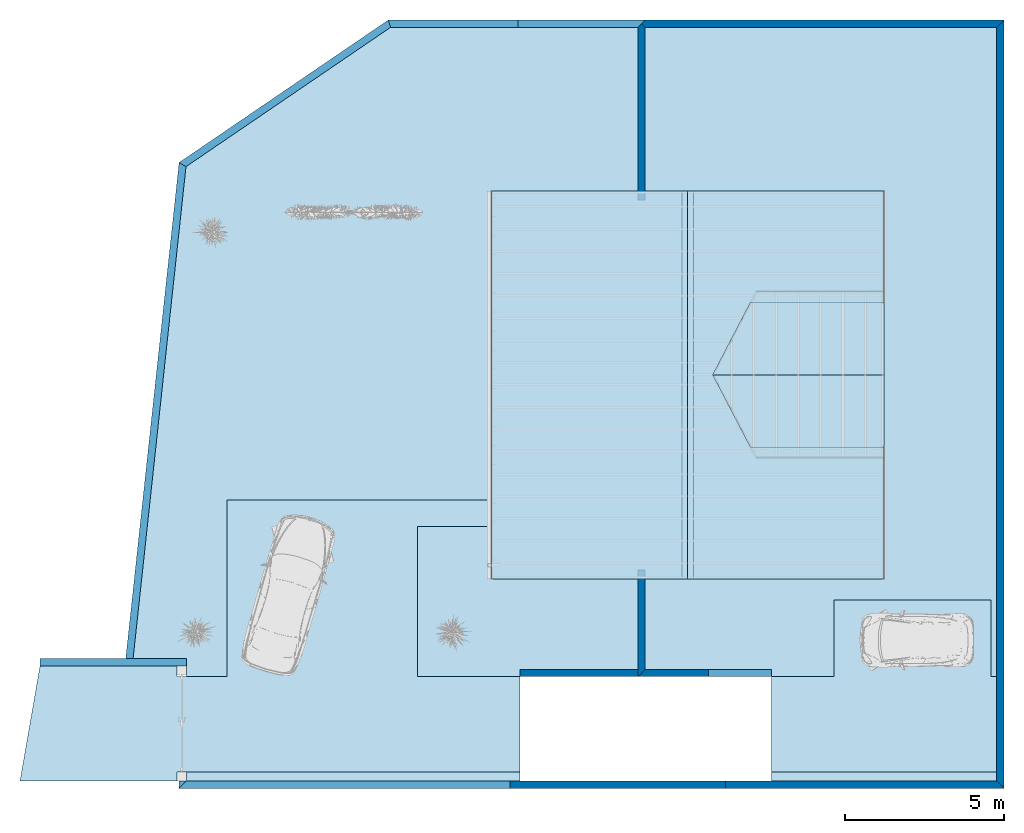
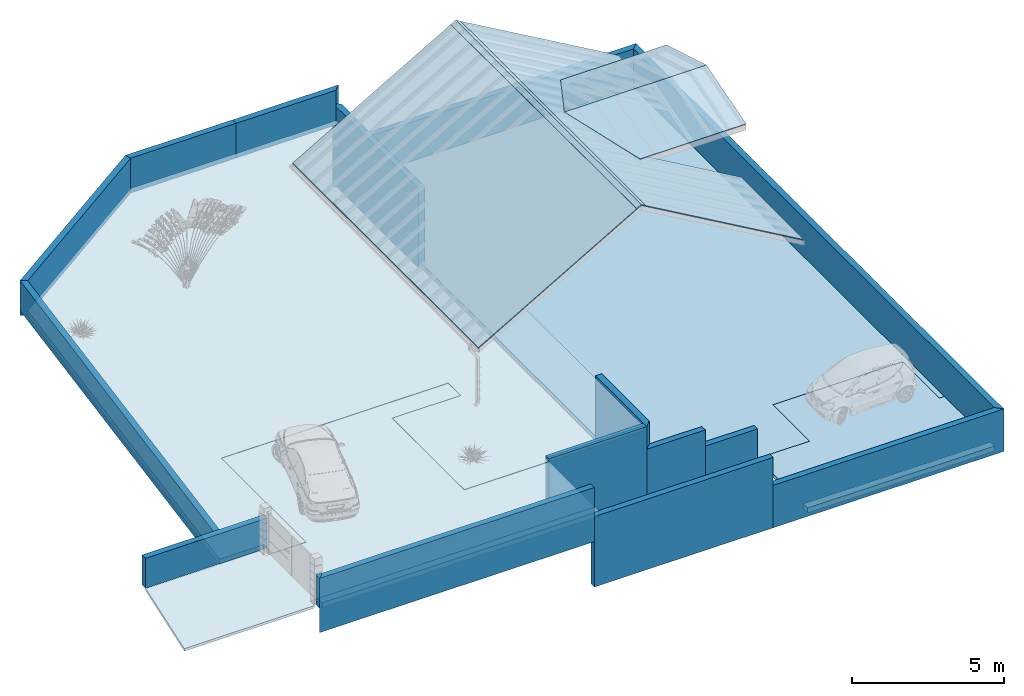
# One storey, part 1 of 7: 22 slabs, 16 walls, 1 opening.
"""IFC2X3 building model written with IfcOpenShell, lengths in metres."""

from ifc_helpers import new_model, entity, si_unit, converted_unit, derived_unit, money_unit, direction, frame, origin_with_axes, origin_2d_with_axis, place, context, subcontext, project, spatial, polyline, rectangle, outline, extrude, material, layer, layer_set, layer_usage, type_object, element, save


model = new_model("IFC2X3")

# Units and contexts
model_context = context("Model", 3, precision=1e-05, world=origin_with_axes(), true_north=direction((0.0, 1.0)))
body_context = subcontext(model_context, "Body", "Model", "MODEL_VIEW")
ifc_project = project(units=[si_unit("LENGTHUNIT", "METRE"), si_unit("AREAUNIT", "SQUARE_METRE"), si_unit("VOLUMEUNIT", "CUBIC_METRE"), converted_unit("PLANEANGLEUNIT", "DEGREE", entity("IfcPlaneAngleMeasure", 0.0174532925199), si_unit("PLANEANGLEUNIT", "RADIAN"), dimensions=[0, 0, 0, 0, 0, 0, 0]), si_unit("SOLIDANGLEUNIT", "STERADIAN"), money_unit("CHF"), converted_unit("TIMEUNIT", "Year", entity("IfcTimeMeasure", 31556926.0), si_unit("TIMEUNIT", "SECOND"), dimensions=[0, 0, 1, 0, 0, 0, 0]), si_unit("MASSUNIT", "GRAM", prefix="KILO"), si_unit("THERMODYNAMICTEMPERATUREUNIT", "DEGREE_CELSIUS"), si_unit("LUMINOUSINTENSITYUNIT", "LUMEN"), si_unit("ENERGYUNIT", "JOULE", prefix="MEGA"), derived_unit("THERMALCONDUCTANCEUNIT", [(si_unit("POWERUNIT", "WATT"), 1), (si_unit("LENGTHUNIT", "METRE"), -1), (si_unit("THERMODYNAMICTEMPERATUREUNIT", "KELVIN"), -1)]), derived_unit("SPECIFICHEATCAPACITYUNIT", [(si_unit("ENERGYUNIT", "JOULE"), 1), (si_unit("MASSUNIT", "GRAM", prefix="KILO"), -1), (si_unit("THERMODYNAMICTEMPERATUREUNIT", "KELVIN"), -1)]), derived_unit("MASSDENSITYUNIT", [(si_unit("MASSUNIT", "GRAM", prefix="KILO"), 1), (si_unit("VOLUMEUNIT", "CUBIC_METRE"), -1)])], contexts=[model_context])

# Site, building, storey
site_placement = place(None, origin_with_axes())
site = spatial("IfcSite", under=ifc_project, at=site_placement, Name="Site", CompositionType="ELEMENT")
building_placement = place(site_placement, origin_with_axes())
building = spatial("IfcBuilding", under=site, at=building_placement, Name="Bâtiment", CompositionType="ELEMENT")
storey_placement = place(building_placement, frame((0.0, 0.0, 9.0), z_axis=(0.0, 0.0, 1.0), x_axis=(1.0, 0.0, 0.0)))
storey = spatial("IfcBuildingStorey", under=building, at=storey_placement, Name="TOITURE", CompositionType="ELEMENT", Elevation=9.0)

# Slabs
ifc_material_1 = material(Name="Sans Trame* 3165822909")
ifc_layer_1 = layer(ifc_material_1, 0.01, ventilated="UNKNOWN")
ifc_layer_set_1 = layer_set([ifc_layer_1], Name="Sans Trame* 3165822909 0.01")
ifc_layer_usage_1 = layer_usage(ifc_layer_set_1, "AXIS3", "NEGATIVE", 0.01)
slab_type_1 = type_object("IfcSlabType", Name="Sans Trame* 3165822909 10", PredefinedType="ROOF")
slab_1_placement = place(storey_placement, frame((84.7835191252, 19.0903411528, -6.13120418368), z_axis=(0.0, 0.0, 1.0), x_axis=(0.0, -1.0, 0.0)))
element("IfcSlab", 1, at=slab_1_placement, inside=storey, type_object=slab_type_1, material=ifc_layer_usage_1, Name="Toit-01", PredefinedType="ROOF", context=body_context, shape_type="SweptSolid", body=[
    extrude(outline(polyline([(9.56579953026e-08, 6.80118608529), (6.66677308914e-08, -0.323316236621), (12.1900000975, -0.323316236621), (12.190000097, 6.80118608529), (9.56579953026e-08, 6.80118608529)])), frame((0.0, 0.0, 0.0), z_axis=(0.0, -0.5, 0.866025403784), x_axis=(1.0, 0.0, 0.0)), (0.0, 0.5, 0.866025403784), 0.0115470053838),
])
ifc_layer_usage_2 = layer_usage(ifc_layer_set_1, "AXIS3", "NEGATIVE", 0.01)
slab_2_placement = place(storey_placement, frame((84.7835191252, 19.0903411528, -6.13120418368), z_axis=(0.0, 0.0, 1.0), x_axis=(0.0, -1.0, 0.0)))
element("IfcSlab", 2, at=slab_2_placement, inside=storey, type_object=slab_type_1, material=ifc_layer_usage_2, Name="Toit-01", PredefinedType="ROOF", context=body_context, shape_type="SweptSolid", body=[
    extrude(outline(polyline([(9.56579953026e-08, 6.80118608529), (6.66677308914e-08, -0.323316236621), (12.1900000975, -0.323316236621), (12.190000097, 6.80118608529), (9.56579953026e-08, 6.80118608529)])), frame((0.0, 0.0, 0.0), z_axis=(0.0, -0.5, 0.866025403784), x_axis=(1.0, 0.0, 0.0)), (0.0, 0.5, 0.866025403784), 0.0115470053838),
])
ifc_material_2 = material(Name="Finition ext - Crépis")
ifc_layer_2 = layer(ifc_material_2, 0.01, ventilated="UNKNOWN")
ifc_layer_set_2 = layer_set([ifc_layer_2], Name="Finition ext - Crépis 0.01")
ifc_layer_usage_3 = layer_usage(ifc_layer_set_2, "AXIS3", "NEGATIVE", 0.01)
slab_type_2 = type_object("IfcSlabType", Name="Finition ext - Crépis 10", PredefinedType="ROOF")
slab_3_placement = place(storey_placement, frame((96.5635189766, 6.90034098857, -6.13120418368), z_axis=(0.0, 0.0, 1.0), x_axis=(0.0, 1.0, 0.0)))
element("IfcSlab", 3, at=slab_3_placement, inside=storey, type_object=slab_type_2, material=ifc_layer_usage_3, Name="Toit-01", PredefinedType="ROOF", context=body_context, shape_type="SweptSolid", body=[
    extrude(outline(polyline([(6.66677308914e-08, 6.80118608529), (6.66677308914e-08, -0.323316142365), (4.15000010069, -0.323316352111), (4.15000010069, 4.52616059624), (6.41500006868, 5.88897265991), (8.68000006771, 4.52616057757), (8.68000002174, -0.323316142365), (12.1900000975, -0.323316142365), (12.1900000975, 6.80118608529), (6.66677308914e-08, 6.80118608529)])), frame((0.0, 0.0, 0.0), z_axis=(0.0, -0.5, 0.866025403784), x_axis=(1.0, 0.0, 0.0)), (0.0, 0.5, 0.866025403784), 0.0115470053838),
])
ifc_layer_usage_4 = layer_usage(ifc_layer_set_2, "AXIS3", "NEGATIVE", 0.01)
slab_4_placement = place(storey_placement, frame((96.5635189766, 6.90034098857, -6.13120418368), z_axis=(0.0, 0.0, 1.0), x_axis=(0.0, 1.0, 0.0)))
element("IfcSlab", 4, at=slab_4_placement, inside=storey, type_object=slab_type_2, material=ifc_layer_usage_4, Name="Toit-01", PredefinedType="ROOF", context=body_context, shape_type="SweptSolid", body=[
    extrude(outline(polyline([(6.66677308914e-08, 6.80118608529), (6.66677308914e-08, -0.323316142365), (4.15000010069, -0.323316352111), (4.15000010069, 4.52616059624), (6.41500006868, 5.88897265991), (8.68000006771, 4.52616057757), (8.68000002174, -0.323316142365), (12.1900000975, -0.323316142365), (12.1900000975, 6.80118608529), (6.66677308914e-08, 6.80118608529)])), frame((0.0, 0.0, 0.0), z_axis=(0.0, -0.5, 0.866025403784), x_axis=(1.0, 0.0, 0.0)), (0.0, 0.5, 0.866025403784), 0.0115470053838),
])
ifc_layer_3 = layer(ifc_material_1, 0.02, ventilated="UNKNOWN")
ifc_layer_set_3 = layer_set([ifc_layer_3], Name="Sans Trame* 3165822909 0.02")
ifc_layer_usage_5 = layer_usage(ifc_layer_set_3, "AXIS3", "NEGATIVE", 0.02)
slab_type_3 = type_object("IfcSlabType", Name="Sans Trame* 3165822909 20", PredefinedType="ROOF")
slab_5_placement = place(storey_placement, frame((96.5635189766, 6.90034098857, -6.16368705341), z_axis=(0.0, 0.0, 1.0), x_axis=(0.0, 1.0, 0.0)))
element("IfcSlab", 5, at=slab_5_placement, inside=storey, type_object=slab_type_3, material=ifc_layer_usage_5, Name="Toit-01", PredefinedType="ROOF", context=body_context, shape_type="SweptSolid", body=[
    extrude(outline(polyline([(6.66677308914e-08, 6.80118608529), (6.66677308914e-08, -0.323316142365), (4.15000010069, -0.323316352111), (4.15000010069, 4.52616059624), (6.41500006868, 5.88897265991), (8.68000006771, 4.52616057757), (8.68000002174, -0.323316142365), (12.1900000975, -0.323316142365), (12.1900000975, 6.80118608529), (6.66677308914e-08, 6.80118608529)])), frame((0.0, 0.0, 0.0), z_axis=(0.0, -0.5, 0.866025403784), x_axis=(1.0, 0.0, 0.0)), (0.0, 0.5, 0.866025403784), 0.0230940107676),
])
ifc_layer_usage_6 = layer_usage(ifc_layer_set_3, "AXIS3", "NEGATIVE", 0.02)
slab_6_placement = place(storey_placement, frame((92.6776186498, 10.9853410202, -3.88466026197), z_axis=(0.0, 0.0, 1.0), x_axis=(1.0, 0.0, 0.0)))
element("IfcSlab", 6, at=slab_6_placement, inside=storey, type_object=slab_type_3, material=ifc_layer_usage_6, Name="Toit-06", PredefinedType="ROOF", context=body_context, shape_type="SweptSolid", body=[
    extrude(outline(polyline([(-1.21409959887, 2.4300710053), (0.145900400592, -0.292025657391), (4.1659004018, -0.292025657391), (4.16590040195, 2.4300710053), (-1.21409959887, 2.4300710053)])), frame((0.0, 0.0, 0.0), z_axis=(0.0, -0.284015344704, 0.958819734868), x_axis=(1.0, 0.0, 0.0)), (0.0, 0.284015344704, 0.958819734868), 0.0208589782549),
])
ifc_layer_usage_7 = layer_usage(ifc_layer_set_3, "AXIS3", "NEGATIVE", 0.02)
slab_7_placement = place(storey_placement, frame((84.7835191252, 19.0903411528, -6.16368705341), z_axis=(0.0, 0.0, 1.0), x_axis=(0.0, -1.0, 0.0)))
element("IfcSlab", 7, at=slab_7_placement, inside=storey, type_object=slab_type_3, material=ifc_layer_usage_7, Name="Toit-01", PredefinedType="ROOF", context=body_context, shape_type="SweptSolid", body=[
    extrude(outline(polyline([(9.56579953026e-08, 6.80118608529), (6.66677308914e-08, -0.323316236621), (12.1900000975, -0.323316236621), (12.190000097, 6.80118608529), (9.56579953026e-08, 6.80118608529)])), frame((0.0, 0.0, 0.0), z_axis=(0.0, -0.5, 0.866025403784), x_axis=(1.0, 0.0, 0.0)), (0.0, 0.5, 0.866025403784), 0.0230940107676),
])
ifc_layer_usage_8 = layer_usage(ifc_layer_set_3, "AXIS3", "NEGATIVE", 0.02)
slab_8_placement = place(storey_placement, frame((96.8435190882, 15.6453410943, -3.88466026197), z_axis=(0.0, 0.0, 1.0), x_axis=(-1.0, 0.0, 0.0)))
element("IfcSlab", 8, at=slab_8_placement, inside=storey, type_object=slab_type_3, material=ifc_layer_usage_8, Name="Toit-06", PredefinedType="ROOF", context=body_context, shape_type="SweptSolid", body=[
    extrude(outline(polyline([(5.38000003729, 2.4300710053), (3.64724286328e-08, 2.4300710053), (3.66247121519e-08, -0.292025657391), (4.02000003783, -0.292025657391), (5.38000003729, 2.4300710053)])), frame((0.0, 0.0, 0.0), z_axis=(0.0, -0.284015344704, 0.958819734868), x_axis=(1.0, 0.0, 0.0)), (0.0, 0.284015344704, 0.958819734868), 0.0208589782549),
])
ifc_layer_usage_9 = layer_usage(ifc_layer_set_3, "AXIS3", "NEGATIVE", 0.02)
slab_9_placement = place(storey_placement, frame((96.5635189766, 6.90034098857, -6.16368705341), z_axis=(0.0, 0.0, 1.0), x_axis=(0.0, 1.0, 0.0)))
element("IfcSlab", 9, at=slab_9_placement, inside=storey, type_object=slab_type_3, material=ifc_layer_usage_9, Name="Toit-01", PredefinedType="ROOF", context=body_context, shape_type="SweptSolid", body=[
    extrude(outline(polyline([(6.66677308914e-08, 6.80118608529), (6.66677308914e-08, -0.323316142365), (4.15000010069, -0.323316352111), (4.15000010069, 4.52616059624), (6.41500006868, 5.88897265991), (8.68000006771, 4.52616057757), (8.68000002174, -0.323316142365), (12.1900000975, -0.323316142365), (12.1900000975, 6.80118608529), (6.66677308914e-08, 6.80118608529)])), frame((0.0, 0.0, 0.0), z_axis=(0.0, -0.5, 0.866025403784), x_axis=(1.0, 0.0, 0.0)), (0.0, 0.5, 0.866025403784), 0.0230940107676),
])
ifc_layer_usage_10 = layer_usage(ifc_layer_set_3, "AXIS3", "NEGATIVE", 0.02)
slab_10_placement = place(storey_placement, frame((92.6776186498, 10.9853410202, -3.88466026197), z_axis=(0.0, 0.0, 1.0), x_axis=(1.0, 0.0, 0.0)))
element("IfcSlab", 10, at=slab_10_placement, inside=storey, type_object=slab_type_3, material=ifc_layer_usage_10, Name="Toit-06", PredefinedType="ROOF", context=body_context, shape_type="SweptSolid", body=[
    extrude(outline(polyline([(-1.21409959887, 2.4300710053), (0.145900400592, -0.292025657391), (4.1659004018, -0.292025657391), (4.16590040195, 2.4300710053), (-1.21409959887, 2.4300710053)])), frame((0.0, 0.0, 0.0), z_axis=(0.0, -0.284015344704, 0.958819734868), x_axis=(1.0, 0.0, 0.0)), (0.0, 0.284015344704, 0.958819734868), 0.0208589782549),
])
ifc_layer_usage_11 = layer_usage(ifc_layer_set_3, "AXIS3", "NEGATIVE", 0.02)
slab_11_placement = place(storey_placement, frame((84.7835191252, 19.0903411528, -6.16368705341), z_axis=(0.0, 0.0, 1.0), x_axis=(0.0, -1.0, 0.0)))
element("IfcSlab", 11, at=slab_11_placement, inside=storey, type_object=slab_type_3, material=ifc_layer_usage_11, Name="Toit-01", PredefinedType="ROOF", context=body_context, shape_type="SweptSolid", body=[
    extrude(outline(polyline([(9.56579953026e-08, 6.80118608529), (6.66677308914e-08, -0.323316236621), (12.1900000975, -0.323316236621), (12.190000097, 6.80118608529), (9.56579953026e-08, 6.80118608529)])), frame((0.0, 0.0, 0.0), z_axis=(0.0, -0.5, 0.866025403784), x_axis=(1.0, 0.0, 0.0)), (0.0, 0.5, 0.866025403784), 0.0230940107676),
])
ifc_layer_usage_12 = layer_usage(ifc_layer_set_3, "AXIS3", "NEGATIVE", 0.02)
slab_12_placement = place(storey_placement, frame((96.8435190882, 15.6453410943, -3.88466026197), z_axis=(0.0, 0.0, 1.0), x_axis=(-1.0, 0.0, 0.0)))
element("IfcSlab", 12, at=slab_12_placement, inside=storey, type_object=slab_type_3, material=ifc_layer_usage_12, Name="Toit-06", PredefinedType="ROOF", context=body_context, shape_type="SweptSolid", body=[
    extrude(outline(polyline([(5.38000003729, 2.4300710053), (3.64724286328e-08, 2.4300710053), (3.66247121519e-08, -0.292025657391), (4.02000003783, -0.292025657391), (5.38000003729, 2.4300710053)])), frame((0.0, 0.0, 0.0), z_axis=(0.0, -0.284015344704, 0.958819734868), x_axis=(1.0, 0.0, 0.0)), (0.0, 0.284015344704, 0.958819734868), 0.0208589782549),
])
ifc_layer_4 = layer(ifc_material_1, 0.005, ventilated="UNKNOWN")
ifc_layer_set_4 = layer_set([ifc_layer_4], Name="Sans Trame* 3165822909 0.005")
ifc_layer_usage_13 = layer_usage(ifc_layer_set_4, "AXIS3", "NEGATIVE", 0.005)
slab_type_4 = type_object("IfcSlabType", Name="Sans Trame* 3165822909 5", PredefinedType="ROOF")
slab_13_placement = place(storey_placement, frame((90.4990312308, 6.92839869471, -2.81980472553), z_axis=(0.0, 0.0, 1.0), x_axis=(0.0, 1.0, 0.0)))
element("IfcSlab", 13, at=slab_13_placement, inside=storey, type_object=slab_type_4, material=ifc_layer_usage_13, Name="Toit-014", PredefinedType="ROOF", context=body_context, shape_type="SweptSolid", body=[
    extrude(outline(polyline([(12.1619423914, 0.014676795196), (-0.0280576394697, -0.000258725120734), (-0.0280576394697, -0.201481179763), (12.1619423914, -0.201481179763), (12.1619423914, 0.014676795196)])), frame((0.0, 0.0, 0.0), z_axis=(0.0, 0.5, 0.866025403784), x_axis=(1.0, 0.0, 0.0)), (0.0, -0.5, 0.866025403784), 0.0057735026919),
])
ifc_layer_usage_14 = layer_usage(ifc_layer_set_4, "AXIS3", "NEGATIVE", 0.005)
slab_14_placement = place(storey_placement, frame((90.8480068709, 8.2742795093, -2.81980472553), z_axis=(0.0, 0.0, 1.0), x_axis=(0.0, -1.0, 0.0)))
element("IfcSlab", 14, at=slab_14_placement, inside=storey, type_object=slab_type_4, material=ifc_layer_usage_14, Name="Toit-014", PredefinedType="ROOF", context=body_context, shape_type="SweptSolid", body=[
    extrude(outline(polyline([(-10.8160615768, 0.014676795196), (-10.8160615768, -0.201481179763), (1.37393845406, -0.201481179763), (1.37393845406, -0.000258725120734), (-10.8160615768, 0.014676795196)])), frame((0.0, 0.0, 0.0), z_axis=(0.0, 0.5, 0.866025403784), x_axis=(1.0, 0.0, 0.0)), (0.0, -0.5, 0.866025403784), 0.0057735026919),
])
ifc_layer_usage_15 = layer_usage(ifc_layer_set_4, "AXIS3", "NEGATIVE", 0.005)
slab_15_placement = place(storey_placement, frame((90.4990312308, 6.92839869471, -2.81980472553), z_axis=(0.0, 0.0, 1.0), x_axis=(0.0, 1.0, 0.0)))
element("IfcSlab", 15, at=slab_15_placement, inside=storey, type_object=slab_type_4, material=ifc_layer_usage_15, Name="Toit-014", PredefinedType="ROOF", context=body_context, shape_type="SweptSolid", body=[
    extrude(outline(polyline([(12.1619423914, 0.014676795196), (-0.0280576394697, -0.000258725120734), (-0.0280576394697, -0.201481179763), (12.1619423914, -0.201481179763), (12.1619423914, 0.014676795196)])), frame((0.0, 0.0, 0.0), z_axis=(0.0, 0.5, 0.866025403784), x_axis=(1.0, 0.0, 0.0)), (0.0, -0.5, 0.866025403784), 0.0057735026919),
])
ifc_layer_usage_16 = layer_usage(ifc_layer_set_4, "AXIS3", "NEGATIVE", 0.005)
slab_16_placement = place(storey_placement, frame((90.8480068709, 8.2742795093, -2.81980472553), z_axis=(0.0, 0.0, 1.0), x_axis=(0.0, -1.0, 0.0)))
element("IfcSlab", 16, at=slab_16_placement, inside=storey, type_object=slab_type_4, material=ifc_layer_usage_16, Name="Toit-014", PredefinedType="ROOF", context=body_context, shape_type="SweptSolid", body=[
    extrude(outline(polyline([(-10.8160615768, 0.014676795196), (-10.8160615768, -0.201481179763), (1.37393845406, -0.201481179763), (1.37393845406, -0.000258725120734), (-10.8160615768, 0.014676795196)])), frame((0.0, 0.0, 0.0), z_axis=(0.0, 0.5, 0.866025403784), x_axis=(1.0, 0.0, 0.0)), (0.0, -0.5, 0.866025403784), 0.0057735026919),
])
ifc_material_3 = material(Name="Struct. - Chape")
ifc_layer_5 = layer(ifc_material_3, 0.2, ventilated="UNKNOWN")
ifc_layer_set_5 = layer_set([ifc_layer_5], Name="Struct. - Chape 0.2")
ifc_layer_usage_17 = layer_usage(ifc_layer_set_5, "AXIS3", "NEGATIVE", 0.2)
slab_type_5 = type_object("IfcSlabType", Name="Struct. - Chape 200", PredefinedType="FLOOR")
slab_17_placement = place(storey_placement, frame((74.9173694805, 0.546141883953, -9.3), z_axis=(0.0, 0.0, 1.0), x_axis=(1.0, 0.0, 0.0)))
element("IfcSlab", 17, at=slab_17_placement, inside=storey, type_object=slab_type_5, material=ifc_layer_usage_17, Name="Dalle-013", PredefinedType="FLOOR", context=body_context, shape_type="SweptSolid", body=[
    extrude(outline(polyline([(0.0, 0.0), (10.4924620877, 0.0), (10.4924620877, 0.281161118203), (0.0, 0.289885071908), (0.0, 0.0)])), frame((0.0, 0.0, -0.2), z_axis=(0.0, 0.0, 1.0), x_axis=(1.0, 0.0, 0.0)), (0.0, 0.0, 1.0), 0.2),
])
ifc_layer_usage_18 = layer_usage(ifc_layer_set_5, "AXIS3", "NEGATIVE", 0.2)
slab_18_placement = place(storey_placement, frame((93.3052222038, 0.546141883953, -11.94), z_axis=(0.0, 0.0, 1.0), x_axis=(1.0, 0.0, 0.0)))
element("IfcSlab", 18, at=slab_18_placement, inside=storey, type_object=slab_type_5, material=ifc_layer_usage_18, Name="Dalle-013", PredefinedType="FLOOR", context=body_context, shape_type="SweptSolid", body=[
    extrude(outline(polyline([(0.0, 0.0), (7.07885762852, 0.0), (7.07885762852, 0.281161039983), (0.0, 0.281161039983), (0.0, 0.0)])), frame((0.0, 0.0, -0.2), z_axis=(0.0, 0.0, 1.0), x_axis=(1.0, 0.0, 0.0)), (0.0, 0.0, 1.0), 0.2),
])
ifc_layer_usage_19 = layer_usage(ifc_layer_set_5, "AXIS3", "NEGATIVE", 0.2)
slab_19_placement = place(storey_placement, frame((74.9046839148, 19.8567668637, -9.3), z_axis=(0.0, 0.0, 1.0), x_axis=(1.0, 0.0, 0.0)))
element("IfcSlab", 19, at=slab_19_placement, inside=storey, type_object=slab_type_5, material=ifc_layer_usage_19, Name="Dalle-012", PredefinedType="FLOOR", context=body_context, shape_type="SweptSolid", body=[
    extrude(outline(polyline([(0.0, 0.0), (-1.66294159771, -15.4606249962), (0.0126856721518, -15.4606249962), (0.0126856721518, -16.0294639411), (1.28268589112, -16.0294639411), (1.28268589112, -10.4842024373), (9.87883527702, -10.4842024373), (9.87883527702, -11.3076708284), (7.28268554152, -11.3076708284), (7.28268554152, -16.0294639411), (10.505147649, -16.0294639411), (10.505147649, -15.7994637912), (14.2008352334, -15.7994637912), (14.2008352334, 4.37235854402), (6.4307185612, 4.37952690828), (0.0, 0.0)])), frame((0.0, 0.0, -0.2), z_axis=(0.0, 0.0, 1.0), x_axis=(1.0, 0.0, 0.0)), (0.0, 0.0, 1.0), 0.2),
])
ifc_layer_usage_20 = layer_usage(ifc_layer_set_5, "AXIS3", "NEGATIVE", 0.2)
slab_20_placement = place(storey_placement, frame((89.3355190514, 4.05730292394, -11.94), z_axis=(0.0, 0.0, 1.0), x_axis=(1.0, 0.0, 0.0)))
element("IfcSlab", 20, at=slab_20_placement, inside=storey, type_object=slab_type_5, material=ifc_layer_usage_20, Name="Dalle-012", PredefinedType="FLOOR", context=body_context, shape_type="SweptSolid", body=[
    extrude(outline(polyline([(0.0, 0.0), (3.96970315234, 0.0), (3.96970315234, -0.23), (5.93938824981, -0.230000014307), (5.93938824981, 2.17530655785), (10.8660628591, 2.17530655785), (10.8660628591, -0.230000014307), (11.0485607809, -0.230000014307), (11.0485607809, 20.1789908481), (0.0, 20.1789908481), (0.0, 0.0)])), frame((0.0, 0.0, -0.2), z_axis=(0.0, 0.0, 1.0), x_axis=(1.0, 0.0, 0.0)), (0.0, 0.0, 1.0), 0.2),
])
ifc_layer_6 = layer(ifc_material_3, 0.1, ventilated="UNKNOWN")
ifc_layer_set_6 = layer_set([ifc_layer_6], Name="Struct. - Chape 0.1")
ifc_layer_usage_21 = layer_usage(ifc_layer_set_6, "AXIS3", "NEGATIVE", 0.1)
slab_type_6 = type_object("IfcSlabType", Name="Struct. - Chape 100", PredefinedType="FLOOR")
slab_21_placement = place(storey_placement, frame((70.3160203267, 4.16614173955, -9.30853798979), z_axis=(0.0, 0.0, 1.0), x_axis=(1.0, 0.0, 0.0)))
element("IfcSlab", 21, at=slab_21_placement, inside=storey, type_object=slab_type_6, material=ifc_layer_usage_21, Name="Dalle-012", PredefinedType="FLOOR", context=body_context, shape_type="SweptSolid", body=[
    extrude(outline(polyline([(0.0, 0.0), (-0.628650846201, -3.6199998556), (4.31134909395, -3.6199998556), (4.31177408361, -3.33004421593), (15.0938112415, -3.33883873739), (15.0938112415, -0.338838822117), (11.8713491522, -0.338838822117), (11.8713491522, 4.38295422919), (14.4674987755, 4.38295422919), (14.4674987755, 5.2064225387), (5.87134932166, 5.2064225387), (5.87134932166, -0.338838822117), (4.31134909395, -0.338838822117), (4.31134909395, 2.34283165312e-07), (0.0, 0.0)])), frame((0.0, 0.0, -0.1), z_axis=(0.0, 0.0, 1.0), x_axis=(1.0, 0.0, 0.0)), (0.0, 0.0, 1.0), 0.1),
])
ifc_layer_7 = layer(ifc_material_3, 0.15, ventilated="UNKNOWN")
ifc_layer_set_7 = layer_set([ifc_layer_7], Name="Struct. - Chape 0.15")
ifc_layer_usage_22 = layer_usage(ifc_layer_set_7, "AXIS3", "NEGATIVE", 0.15)
slab_type_7 = type_object("IfcSlabType", Name="Struct. - Chape 150", PredefinedType="FLOOR")
slab_22_placement = place(storey_placement, frame((93.3052222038, 0.827302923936, -11.94), z_axis=(0.0, 0.0, 1.0), x_axis=(1.0, 0.0, 0.0)))
element("IfcSlab", 22, at=slab_22_placement, inside=storey, type_object=slab_type_7, material=ifc_layer_usage_22, Name="Dalle-011", PredefinedType="FLOOR", context=body_context, shape_type="SweptSolid", body=[
    extrude(outline(polyline([(0.0, 0.0), (7.07885762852, 0.0), (7.07885762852, 2.99999998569), (6.89635970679, 2.99999998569), (6.89635970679, 5.40530655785), (1.96968509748, 5.40530655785), (1.96968509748, 2.99999998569), (0.0, 2.99999998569), (0.0, 0.0)])), frame((0.0, 0.0, -0.15), z_axis=(0.0, 0.0, 1.0), x_axis=(1.0, 0.0, 0.0)), (0.0, 0.0, 1.0), 0.15),
])

# Walls
ifc_material_4 = material(Name="Hachure solide 2628782308")
ifc_layer_8 = layer(ifc_material_4, 0.23, ventilated="UNKNOWN")
ifc_layer_set_8 = layer_set([ifc_layer_8], Name="Hachure solide 2628782308 0.23")
ifc_layer_usage_23 = layer_usage(ifc_layer_set_8, "AXIS2", "POSITIVE", 0.0)
wall_type = type_object("IfcWallType", Name="Hachure solide 2628782308 230", PredefinedType="NOTDEFINED")
wall_1_placement = place(storey_placement, frame((85.4098315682, 3.82730292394, -11.9423560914), z_axis=(0.0, 0.0, 1.0), x_axis=(1.0, 0.0, 0.0)))
element("IfcWallStandardCase", 23, at=wall_1_placement, inside=storey, type_object=wall_type, material=ifc_layer_usage_23, Name="MurExt-011", context=body_context, shape_type="SweptSolid", body=[
    extrude(outline(polyline([(0.0, 0.0), (3.69568748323, 0.0), (3.69568748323, 0.23), (0.0, 0.23), (0.0, 0.0)])), origin_with_axes(), (0.0, 0.0, 1.0), 2.75),
])
ifc_layer_usage_24 = layer_usage(ifc_layer_set_8, "AXIS2", "POSITIVE", 0.0)
wall_2_placement = place(storey_placement, frame((91.3270779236, 3.82730292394, -12.0585379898), z_axis=(0.0, 0.0, 1.0), x_axis=(1.0, 0.0, 0.0)))
element("IfcWallStandardCase", 24, at=wall_2_placement, inside=storey, type_object=wall_type, material=ifc_layer_usage_24, Name="MurExt-012", context=body_context, shape_type="SweptSolid", body=[
    extrude(outline(polyline([(0.0, 0.0), (1.97814428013, 0.0), (1.97814428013, 0.23), (0.0, 0.23), (0.0, 0.0)])), origin_with_axes(), (0.0, 0.0, 1.0), 1.30204088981),
])

# Wall, opening
ifc_layer_usage_25 = layer_usage(ifc_layer_set_8, "AXIS2", "POSITIVE", -0.23)
wall_3_placement = place(storey_placement, frame((74.6873694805, 0.316141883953, -9.3), z_axis=(0.0, 0.0, 1.0), x_axis=(0.0, 1.0, 0.0)))
wall_3 = element("IfcWallStandardCase", 25, at=wall_3_placement, inside=storey, type_object=wall_type, material=ifc_layer_usage_25, Name="MurExt-011", context=body_context, shape_type="SweptSolid", body=[
    extrude(outline(polyline([(0.23, -0.23), (3.85, -0.23), (3.85, 0.0), (0.0, 0.0), (0.23, -0.23)])), origin_with_axes(), (0.0, 0.0, 1.0), 1.2),
])
opening_placement = place(wall_3_placement, frame((2.04, 0.0, -0.25), z_axis=(0.0, 0.0, 1.0), x_axis=(1.0, 0.0, 0.0)))
element("IfcOpeningElement", 26, at=opening_placement, cuts=wall_3, Name="Por-051", context=body_context, shape_type="SweptSolid", body=[
    extrude(rectangle(XDim=3.62, YDim=2.1, at=origin_2d_with_axis()), frame((0.0, 0.23, 1.05), z_axis=(0.0, 1.0, 0.0), x_axis=(-1.0, 0.0, 0.0)), (0.0, 0.0, -1.0), 0.69),
])

# Walls
ifc_layer_usage_26 = layer_usage(ifc_layer_set_8, "AXIS2", "POSITIVE", -0.23)
wall_4_placement = place(storey_placement, frame((74.6873694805, 19.9870408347, -9.5), z_axis=(0.0, 0.0, 1.0), x_axis=(0.826529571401, 0.562893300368, 0.0)))
element("IfcWallStandardCase", 27, at=wall_4_placement, inside=storey, type_object=wall_type, material=ifc_layer_usage_26, Name="MurExt-012", context=body_context, shape_type="SweptSolid", body=[
    extrude(outline(polyline([(0.1062865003, -0.23), (7.88667183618, -0.23), (7.95755240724, 0.0), (0.0, 0.0), (0.1062865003, -0.23)])), origin_with_axes(), (0.0, 0.0, 1.0), 1.4),
])
ifc_layer_usage_27 = layer_usage(ifc_layer_set_8, "AXIS2", "POSITIVE", -0.23)
wall_5_placement = place(storey_placement, frame((81.2645218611, 24.466293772, -9.5), z_axis=(0.0, 0.0, 1.0), x_axis=(1.0, 0.0, 0.0)))
element("IfcWallStandardCase", 28, at=wall_5_placement, inside=storey, type_object=wall_type, material=ifc_layer_usage_27, Name="MurExt-013", context=body_context, shape_type="SweptSolid", body=[
    extrude(outline(polyline([(0.0708805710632, -0.23), (4.06778073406, -0.23), (4.06778073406, 0.0), (0.0, 0.0), (0.0708805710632, -0.23)])), origin_with_axes(), (0.0, 0.0, 1.0), 1.4),
])
ifc_layer_usage_28 = layer_usage(ifc_layer_set_8, "AXIS2", "POSITIVE", -0.23)
wall_6_placement = place(storey_placement, frame((89.3355190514, 24.466293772, -12.09), z_axis=(0.0, 0.0, 1.0), x_axis=(1.0, 0.0, 0.0)))
element("IfcWallStandardCase", 29, at=wall_6_placement, inside=storey, type_object=wall_type, material=ifc_layer_usage_28, Name="MurExt-014", context=body_context, shape_type="SweptSolid", body=[
    extrude(outline(polyline([(0.0, -0.23), (11.0485607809, -0.23), (11.2785607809, 0.0), (-0.23, 0.0), (0.0, -0.23)])), origin_with_axes(), (0.0, 0.0, 1.0), 1.7),
])
ifc_layer_usage_29 = layer_usage(ifc_layer_set_8, "AXIS2", "POSITIVE", -0.23)
wall_7_placement = place(storey_placement, frame((100.614079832, 24.466293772, -12.09), z_axis=(0.0, 0.0, 1.0), x_axis=(0.0, -1.0, 0.0)))
element("IfcWallStandardCase", 30, at=wall_7_placement, inside=storey, type_object=wall_type, material=ifc_layer_usage_29, Name="MurExt-015", context=body_context, shape_type="SweptSolid", body=[
    extrude(outline(polyline([(0.23, -0.23), (23.9201518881, -0.23), (24.1501518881, 0.0), (0.0, 0.0), (0.23, -0.23)])), origin_with_axes(), (0.0, 0.0, 1.0), 1.7),
])
ifc_layer_usage_30 = layer_usage(ifc_layer_set_8, "AXIS2", "POSITIVE", -0.23)
wall_8_placement = place(storey_placement, frame((100.614079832, 0.316141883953, -12.09), z_axis=(0.0, 0.0, 1.0), x_axis=(-1.0, 0.0, 0.0)))
element("IfcWallStandardCase", 31, at=wall_8_placement, inside=storey, type_object=wall_type, material=ifc_layer_usage_30, Name="MurExt-016", context=body_context, shape_type="SweptSolid", body=[
    extrude(outline(polyline([(0.23, -0.23), (8.74814109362, -0.23), (8.74814109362, 0.0), (0.0, 0.0), (0.23, -0.23)])), origin_with_axes(), (0.0, 0.0, 1.0), 1.7),
])
ifc_layer_usage_31 = layer_usage(ifc_layer_set_8, "AXIS2", "POSITIVE", -0.23)
wall_9_placement = place(storey_placement, frame((91.8659387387, 0.316141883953, -12.09), z_axis=(0.0, 0.0, 1.0), x_axis=(-1.0, 0.0, 0.0)))
element("IfcWallStandardCase", 32, at=wall_9_placement, inside=storey, type_object=wall_type, material=ifc_layer_usage_31, Name="MurExt-017", context=body_context, shape_type="SweptSolid", body=[
    extrude(outline(polyline([(0.0, -0.23), (6.77234528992, -0.23), (6.77234528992, 0.0), (0.0, 0.0), (0.0, -0.23)])), origin_with_axes(), (0.0, 0.0, 1.0), 2.82),
])
ifc_layer_usage_32 = layer_usage(ifc_layer_set_8, "AXIS2", "POSITIVE", -0.23)
wall_10_placement = place(storey_placement, frame((85.0935934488, 0.316141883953, -10.2717132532), z_axis=(0.0, 0.0, 1.0), x_axis=(-1.0, 0.0, 0.0)))
element("IfcWallStandardCase", 33, at=wall_10_placement, inside=storey, type_object=wall_type, material=ifc_layer_usage_32, Name="MurExt-019", context=body_context, shape_type="SweptSolid", body=[
    extrude(outline(polyline([(0.0, -0.23), (10.1762239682, -0.23), (10.4062239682, 0.0), (0.0, 0.0), (0.0, -0.23)])), origin_with_axes(), (0.0, 0.0, 1.0), 2.17171325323),
])
ifc_layer_usage_33 = layer_usage(ifc_layer_set_8, "AXIS2", "POSITIVE", -0.23)
wall_11_placement = place(storey_placement, frame((89.3355190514, 7.18034105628, -11.9423560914), z_axis=(0.0, 0.0, 1.0), x_axis=(0.0, -1.0, 0.0)))
element("IfcWallStandardCase", 34, at=wall_11_placement, inside=storey, type_object=wall_type, material=ifc_layer_usage_33, Name="MurExt-011", context=body_context, shape_type="SweptSolid", body=[
    extrude(outline(polyline([(0.0, -0.23), (3.35303813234, -0.23), (3.12303813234, 0.0), (0.0, 0.0), (0.0, -0.23)])), origin_with_axes(), (0.0, 0.0, 1.0), 2.75),
])
ifc_layer_usage_34 = layer_usage(ifc_layer_set_8, "AXIS2", "NEGATIVE", 0.23)
wall_12_placement = place(storey_placement, frame((89.3355190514, 18.8103410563, -11.9423560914), z_axis=(0.0, 0.0, 1.0), x_axis=(0.0, 1.0, 0.0)))
element("IfcWallStandardCase", 35, at=wall_12_placement, inside=storey, type_object=wall_type, material=ifc_layer_usage_34, Name="MurExt-011", context=body_context, shape_type="SweptSolid", body=[
    extrude(outline(polyline([(0.0, 0.0), (5.42595271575, 0.0), (5.65595271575, 0.23), (0.0, 0.23), (0.0, 0.0)])), origin_with_axes(), (0.0, 0.0, 1.0), 3.2),
])
ifc_layer_usage_35 = layer_usage(ifc_layer_set_8, "AXIS2", "POSITIVE", -0.23)
wall_13_placement = place(storey_placement, frame((85.3323025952, 24.466293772, -9.5), z_axis=(0.0, 0.0, 1.0), x_axis=(1.0, 0.0, 0.0)))
element("IfcWallStandardCase", 36, at=wall_13_placement, inside=storey, type_object=wall_type, material=ifc_layer_usage_35, Name="MurExt-013", context=body_context, shape_type="SweptSolid", body=[
    extrude(outline(polyline([(0.0, -0.23), (3.77321645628, -0.23), (4.00321645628, 0.0), (0.0, 0.0), (0.0, -0.23)])), origin_with_axes(), (0.0, 0.0, 1.0), 1.4),
])
ifc_layer_usage_36 = layer_usage(ifc_layer_set_8, "AXIS2", "POSITIVE", -0.23)
wall_14_placement = place(storey_placement, frame((72.9856769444, 4.16614188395, -9.3), z_axis=(0.0, 0.0, 1.0), x_axis=(0.10694294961, 0.994265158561, 0.0)))
element("IfcWallStandardCase", 37, at=wall_14_placement, inside=storey, type_object=wall_type, material=ifc_layer_usage_36, Name="MurExt-012", context=body_context, shape_type="SweptSolid", body=[
    extrude(outline(polyline([(0.256065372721, -0.23), (15.8058661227, -0.23), (15.912152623, 0.0), (0.231326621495, 0.0), (0.256065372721, -0.23)])), origin_with_axes(), (0.0, 0.0, 1.0), 1.2),
])
ifc_layer_usage_37 = layer_usage(ifc_layer_set_8, "AXIS2", "POSITIVE", -0.23)
wall_15_placement = place(storey_placement, frame((74.9173694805, 4.16614188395, -9.3), z_axis=(0.0, 0.0, 1.0), x_axis=(-1.0, 0.0, 0.0)))
element("IfcWallStandardCase", 38, at=wall_15_placement, inside=storey, type_object=wall_type, material=ifc_layer_usage_37, Name="MurExt-011", context=body_context, shape_type="SweptSolid", body=[
    extrude(outline(polyline([(0.0, -0.23), (4.60134898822, -0.23), (4.60134898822, 0.0), (0.0, 0.0), (0.0, -0.23)])), origin_with_axes(), (0.0, 0.0, 1.0), 1.2),
])
ifc_layer_usage_38 = layer_usage(ifc_layer_set_8, "AXIS2", "POSITIVE", 0.0)
wall_16_placement = place(storey_placement, frame((89.3355190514, 3.82730292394, -11.9423560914), z_axis=(0.0, 0.0, 1.0), x_axis=(1.0, 0.0, 0.0)))
element("IfcWallStandardCase", 39, at=wall_16_placement, inside=storey, type_object=wall_type, material=ifc_layer_usage_38, Name="MurExt-011", context=body_context, shape_type="SweptSolid", body=[
    extrude(outline(polyline([(-0.23, 0.0), (1.99155887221, 0.0), (1.99155887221, 0.23), (0.0, 0.23), (-0.23, 0.0)])), origin_with_axes(), (0.0, 0.0, 1.0), 1.83635477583),
])

save(model, "model.ifc")
